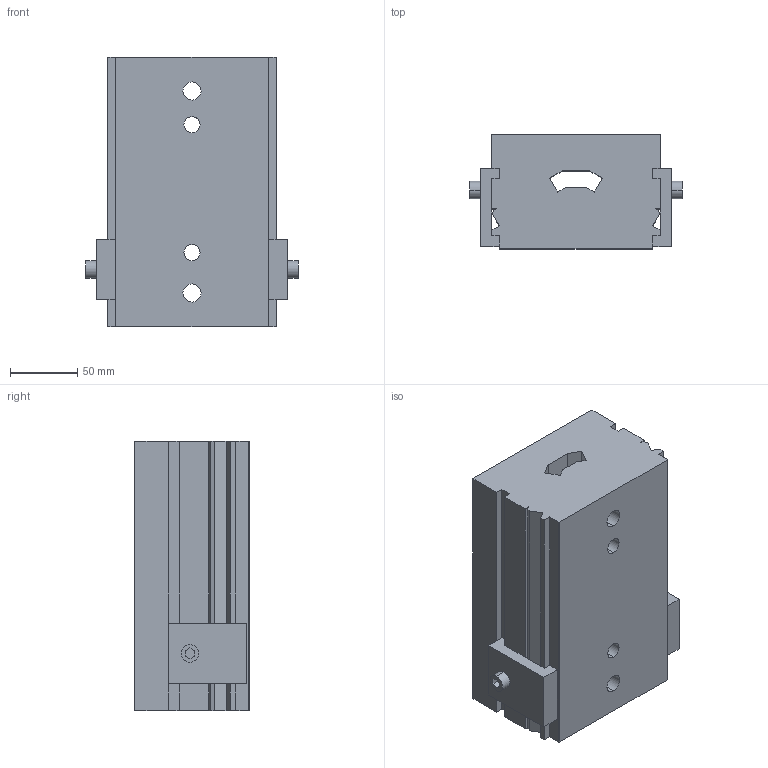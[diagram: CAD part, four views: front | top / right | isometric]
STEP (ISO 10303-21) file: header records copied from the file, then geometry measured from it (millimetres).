
FILE_DESCRIPTION(('CATIA V5 STEP Exchange'),'2;1');
FILE_NAME('C:\Users\Raffaele\Desktop\3D X SITO CF\A945-01\GSB_OILLESS_G24503122001BC\A945-01-1220-01-S-BC.stp','2019-07-10T14:25:56+00:00',('none'),('none'),'CATIA Version 5 Release 20 GA (IN-10)','CATIA V5 STEP AP203','none');
FILE_SCHEMA(('CONFIG_CONTROL_DESIGN'));
Length unit declared in the file: millimetre
Products named in the file (1): A945-01-1220-01-S-BC
Bounding box: 158 x 85 x 200 mm (x, y, z)
Volume: 1999553 mm3; surface area: 147373.9 mm2
Topology: 1 solids, 1 shells, 100 faces, 322 edges, 224 vertices
Faces by surface type: plane 80, cylinder 20
Entity records: 3788 total; most frequent: CARTESIAN_POINT 871, ORIENTED_EDGE 644, DIRECTION 506, EDGE_CURVE 322, VECTOR 242, LINE 242, VERTEX_POINT 224, AXIS2_PLACEMENT_3D 165
